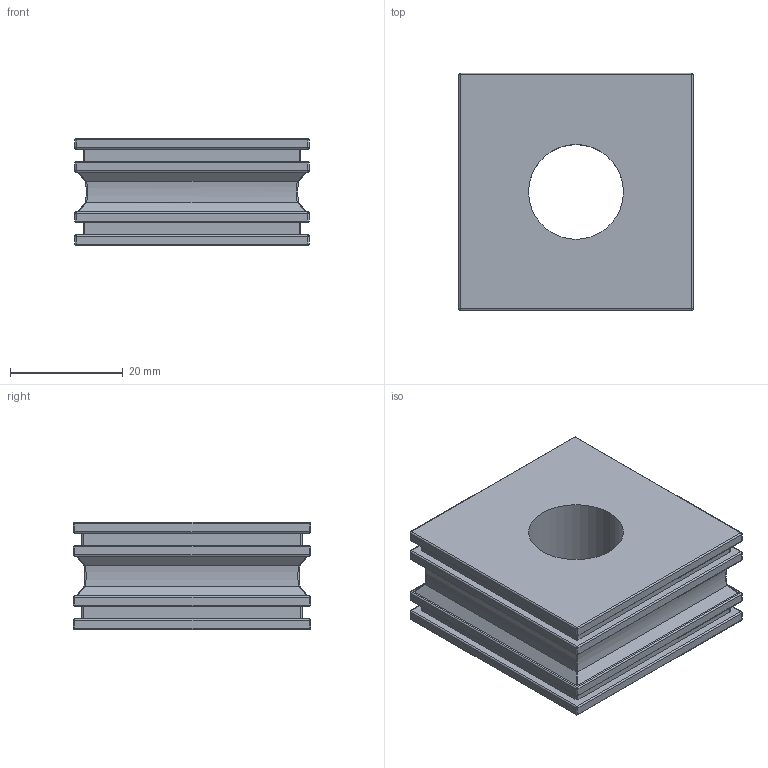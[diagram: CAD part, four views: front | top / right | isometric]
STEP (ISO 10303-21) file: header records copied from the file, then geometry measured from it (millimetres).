
FILE_DESCRIPTION (( 'STEP AP203' ), '1' );
FILE_NAME ('041217 KT17.STEP', '2023-03-07T06:36:31', ( '' ), ( '' ), 'SwSTEP 2.0', 'SolidWorks 2016', '' );
FILE_SCHEMA (( 'CONFIG_CONTROL_DESIGN' ));
Length unit declared in the file: millimetre
Products named in the file (1): 041217 KT17
Bounding box: 41.5 x 42 x 19 mm (x, y, z)
Volume: 26026.5 mm3; surface area: 8229.4 mm2
Topology: 1 solids, 1 shells, 194 faces, 480 edges, 266 vertices
Faces by surface type: plane 81, cylinder 71, bspline 42
Entity records: 6045 total; most frequent: CARTESIAN_POINT 1807, ORIENTED_EDGE 896, DIRECTION 812, EDGE_CURVE 448, AXIS2_PLACEMENT_3D 271, LINE 270, VECTOR 270, VERTEX_POINT 266
